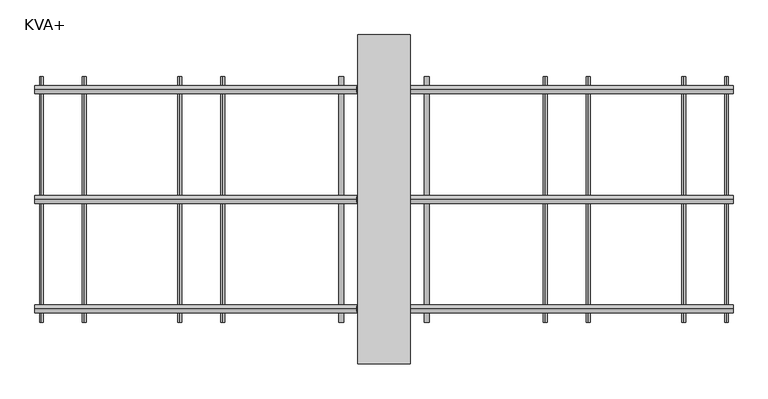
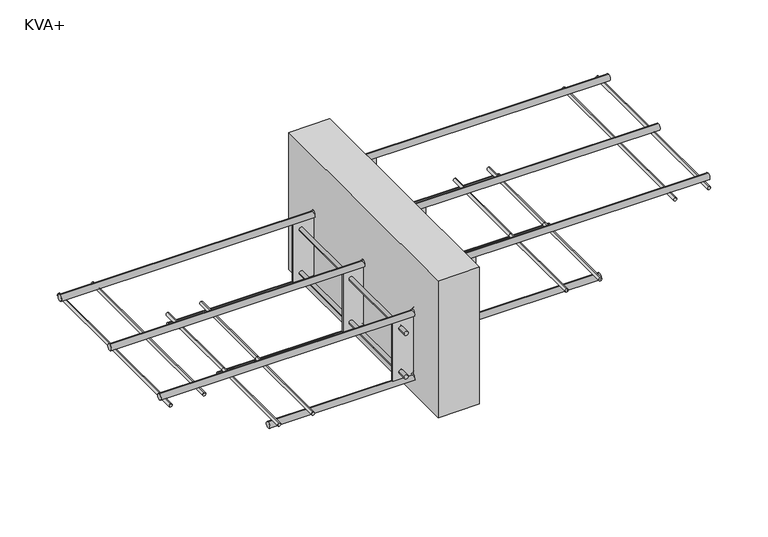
"""IFC4 building model written with IfcOpenShell, lengths in millimetres: fastener geometry, ACINOXplus_Typenreihe_KV : KVA+."""

import ifcopenshell
import ifcopenshell.guid

model = None  # the IFC model being written
_history = None  # IfcOwnerHistory: only IFC2X3 demands one
_inside = {}  # id of a spatial element -> (the spatial element, [elements in it])
_under = {}  # id of a project, library or spatial element -> (it, [spatial elements below it])
_declared = {}  # id of a project -> (the project, [libraries it declares])
_typed = {}  # id of a type object -> (the type object, [elements of that type])
_made_of = {}  # id of a material, layer set ... -> (it, [elements and type objects made of it])


def new_model(schema):
    """Start an empty IFC model of exactly this schema.

    Asked for "IFC4X3", IfcOpenShell would pick the latest addendum, in which some entities
    have other attributes; the version numbers below select the first issue.
    IFC2X3 requires an IfcOwnerHistory on every rooted entity: one is made here for all.
    """
    global model, _history
    if schema == "IFC4X3":
        model = ifcopenshell.file(schema_version=(4, 3, 0, 0))
    else:
        model = ifcopenshell.file(schema=schema)
    _inside.clear()
    _under.clear()
    _declared.clear()
    _typed.clear()
    _made_of.clear()
    _history = None
    if model.schema == "IFC2X3":
        org = make("IfcOrganization", Name="unknown")
        user = make(
            "IfcPersonAndOrganization",
            ThePerson=make("IfcPerson", FamilyName="unknown"),
            TheOrganization=org,
        )
        app = make(
            "IfcApplication",
            ApplicationDeveloper=org,
            Version="unknown",
            ApplicationFullName="unknown",
            ApplicationIdentifier="unknown",
        )
        _history = make(
            "IfcOwnerHistory",
            OwningUser=user,
            OwningApplication=app,
            ChangeAction="ADDED",
            CreationDate=0,
        )
    return model


def make(cls, **values):
    """One entity of the class cls with the attributes given. An attribute that is None is left unset."""
    return model.create_entity(
        cls, **{name: value for name, value in values.items() if value is not None}
    )


def rooted(cls, **values):
    """An entity with a GlobalId (a new one), such as an element, a storey or a relation."""
    return make(cls, GlobalId=ifcopenshell.guid.new(), OwnerHistory=_history, **values)


def si_unit(unit_type, name, prefix=None):
    """IfcSIUnit, for example si_unit("LENGTHUNIT", "METRE", prefix="MILLI")."""
    return make("IfcSIUnit", UnitType=unit_type, Prefix=prefix, Name=name)


def assignment(units):
    """IfcUnitAssignment: the units of a project."""
    return None if units is None else make("IfcUnitAssignment", Units=units)


def point(xyz):
    """IfcCartesianPoint."""
    return None if xyz is None else make("IfcCartesianPoint", Coordinates=xyz)


def direction(xyz):
    """IfcDirection."""
    return None if xyz is None else make("IfcDirection", DirectionRatios=xyz)


def frame(location, z_axis=None, x_axis=None):
    """IfcAxis2Placement3D, a coordinate frame: its origin and axes. An axis left out is left unset."""
    return make(
        "IfcAxis2Placement3D",
        Location=point(location),
        Axis=direction(z_axis),
        RefDirection=direction(x_axis),
    )


def frame_2d(location, x_axis=None):
    """IfcAxis2Placement2D, a coordinate frame in the plane: its origin and x axis."""
    return make(
        "IfcAxis2Placement2D", Location=point(location), RefDirection=direction(x_axis)
    )


def origin():
    """The frame at (0, 0, 0) with its axes left unset."""
    return frame((0.0, 0.0, 0.0))


def place(relative_to, where):
    """IfcLocalPlacement: puts the frame where relative to a parent placement (None: the world)."""
    return make(
        "IfcLocalPlacement", PlacementRelTo=relative_to, RelativePlacement=where
    )


def context(
    kind, dimensions, precision=None, world=None, true_north=None, identifier=None
):
    """IfcGeometricRepresentationContext, for example the 3D "Model" context."""
    return make(
        "IfcGeometricRepresentationContext",
        ContextIdentifier=identifier,
        ContextType=kind,
        CoordinateSpaceDimension=dimensions,
        Precision=precision,
        WorldCoordinateSystem=world,
        TrueNorth=true_north,
    )


def project(units=None, contexts=None):
    """IfcProject with its units and contexts."""
    return rooted(
        "IfcProject",
        Name="project",
        RepresentationContexts=contexts,
        UnitsInContext=assignment(units),
    )


def spatial(cls, under=None, at=None, **own):
    """A site, building, storey or space (cls), placed at a placement, below another one or the project."""
    s = rooted(cls, ObjectPlacement=at, **own)
    if under is not None:
        _under.setdefault(under.id(), (under, []))[1].append(s)
    return s


def polyline(points):
    """IfcPolyline through the points."""
    return make("IfcPolyline", Points=[point(p) for p in points])


def circle_curve(where, radius):
    """IfcCircle in the frame where."""
    return make("IfcCircle", Position=where, Radius=radius)


def ellipse_curve(where, semi_axis1, semi_axis2):
    """IfcEllipse in the frame where."""
    return make(
        "IfcEllipse", Position=where, SemiAxis1=semi_axis1, SemiAxis2=semi_axis2
    )


def trimmed(basis, trim1, trim2, sense, master):
    """IfcTrimmedCurve: the piece of a basis curve between two trims."""
    return make(
        "IfcTrimmedCurve",
        BasisCurve=basis,
        Trim1=trim1,
        Trim2=trim2,
        SenseAgreement=sense,
        MasterRepresentation=master,
    )


def segment(curve, same_sense, transition):
    """IfcCompositeCurveSegment."""
    return make(
        "IfcCompositeCurveSegment",
        Transition=transition,
        SameSense=same_sense,
        ParentCurve=curve,
    )


def composite_curve(segments, self_intersect=None):
    """IfcCompositeCurve: segments joined end to end."""
    return make("IfcCompositeCurve", Segments=segments, SelfIntersect=self_intersect)


def outline(outer, holes=None, kind="AREA"):
    """IfcArbitraryClosedProfileDef: a profile drawn as a closed curve; with holes, ...WithVoids."""
    if holes is None:
        return make("IfcArbitraryClosedProfileDef", ProfileType=kind, OuterCurve=outer)
    return make(
        "IfcArbitraryProfileDefWithVoids",
        ProfileType=kind,
        OuterCurve=outer,
        InnerCurves=holes,
    )


def extrude(swept, where, along, depth):
    """IfcExtrudedAreaSolid: the profile swept, set in the frame where, extruded along a direction by depth."""
    return make(
        "IfcExtrudedAreaSolid",
        SweptArea=swept,
        Position=where,
        ExtrudedDirection=direction(along),
        Depth=depth,
    )


def shape(context_of_items, identifier, shape_type, items):
    """IfcShapeRepresentation: the items that make up one representation, for example the "Body"."""
    return make(
        "IfcShapeRepresentation",
        ContextOfItems=context_of_items,
        RepresentationIdentifier=identifier,
        RepresentationType=shape_type,
        Items=items,
    )


def source(mapping_origin, context_of_items, identifier, shape_type, items):
    """IfcRepresentationMap: a shape defined once, which mapped items show again and again."""
    return make(
        "IfcRepresentationMap",
        MappingOrigin=mapping_origin,
        MappedRepresentation=shape(context_of_items, identifier, shape_type, items),
    )


def transform(
    local_origin,
    x_axis=None,
    y_axis=None,
    z_axis=None,
    scale=None,
    scale2=None,
    scale3=None,
    uniform=True,
):
    """IfcCartesianTransformationOperator3D, or its non-uniform kind. x_axis, y_axis, z_axis: its Axis1, 2, 3."""
    if uniform:
        return make(
            "IfcCartesianTransformationOperator3D",
            Axis1=direction(x_axis),
            Axis2=direction(y_axis),
            LocalOrigin=point(local_origin),
            Scale=scale,
            Axis3=direction(z_axis),
        )
    return make(
        "IfcCartesianTransformationOperator3DnonUniform",
        Axis1=direction(x_axis),
        Axis2=direction(y_axis),
        LocalOrigin=point(local_origin),
        Scale=scale,
        Axis3=direction(z_axis),
        Scale2=scale2,
        Scale3=scale3,
    )


def mapped(mapping_source, mapping_target):
    """IfcMappedItem: shows the shape of a source again, moved by a transform."""
    return make(
        "IfcMappedItem", MappingSource=mapping_source, MappingTarget=mapping_target
    )


def made_of(thing, what):
    """Note that an element or type object is made of a material, layer set ...; save() writes the relation."""
    if what is not None:
        _made_of.setdefault(what.id(), (what, []))[1].append(thing)
    return thing


def element(
    cls,
    number,
    at=None,
    inside=None,
    cuts=None,
    type_object=None,
    material=None,
    context=None,
    identifier="Body",
    shape_type=None,
    held_by="IfcProductDefinitionShape",
    body=None,
    shapes=None,
    **own,
):
    """One element of the class cls, such as IfcWall. Its Tag is "e" and its number.

    at: its placement. inside: the storey or other place that contains it. cuts: it is an
    opening in that element (IfcRelVoidsElement). A single representation is given by context,
    identifier, shape_type and body (its items); several are given by shapes. held_by: the class
    of the entity that holds the representations. save() writes the other relations.
    """
    e = rooted(cls, Tag="e%d" % number, ObjectPlacement=at, **own)
    if body is not None:
        shapes = [shape(context, identifier, shape_type, body)]
    if shapes is not None:
        e.Representation = make(held_by, Representations=shapes)
    if inside is not None:
        _inside.setdefault(inside.id(), (inside, []))[1].append(e)
    if cuts is not None:
        rooted(
            "IfcRelVoidsElement", RelatingBuildingElement=cuts, RelatedOpeningElement=e
        )
    if type_object is not None:
        _typed.setdefault(type_object.id(), (type_object, []))[1].append(e)
    return made_of(e, material)


def aggregate(whole, parts):
    """IfcRelAggregates: a whole, such as a stair, and the parts it consists of."""
    return rooted("IfcRelAggregates", RelatingObject=whole, RelatedObjects=parts)


def save(model, path):
    """Write the relations noted so far, then the file.

    IfcRelAggregates (storeys below a building ...), IfcRelContainedInSpatialStructure (elements
    in a storey), IfcRelDefinesByType, IfcRelAssociatesMaterial and IfcRelDeclares: one each for
    every whole, place, type object, material and project.
    """
    for whole, parts in _under.values():
        aggregate(whole, parts)
    for where, things in _inside.values():
        rooted(
            "IfcRelContainedInSpatialStructure",
            RelatedElements=things,
            RelatingStructure=where,
        )
    for kind, things in _typed.values():
        rooted("IfcRelDefinesByType", RelatedObjects=things, RelatingType=kind)
    for what, things in _made_of.values():
        rooted("IfcRelAssociatesMaterial", RelatedObjects=things, RelatingMaterial=what)
    for by, libraries in _declared.values():
        rooted("IfcRelDeclares", RelatingContext=by, RelatedDefinitions=libraries)
    model.write(path)


def plane_surface(at):
    """IfcPlane: the flat surface through the origin of the frame at, square to its z axis."""
    return make("IfcPlane", Position=at)


def cylinder_surface(at, radius):
    """IfcCylindricalSurface: all points at the distance radius from the z axis of the frame at."""
    return make("IfcCylindricalSurface", Position=at, Radius=radius)


def advanced_brep(points, edges, surfaces, faces):
    """IfcAdvancedBrep: a solid bounded by faces that lie on surfaces and meet in shared edges.

    An edge is (start, end): straight between two places in points (the first is 0);
    or (start, end, curve); or (start, end, curve, False) where it runs against its curve.
    A face is (place in surfaces, loops), or (place, loops, False) where it looks against
    its surface's normal. A loop lists edges by number (the first is 1), with a minus sign
    where the edge is run from its end to its start. The first loop is the outer one.
    """
    corners = [point(p) for p in points]
    vertices = [make("IfcVertexPoint", VertexGeometry=c) for c in corners]
    made = []
    for start, end, *more in edges:
        made.append(
            make(
                "IfcEdgeCurve",
                EdgeStart=vertices[start],
                EdgeEnd=vertices[end],
                EdgeGeometry=more[0] if more else make("IfcPolyline", Points=[corners[start], corners[end]]),
                SameSense=more[1] if len(more) > 1 else True,
            )
        )
    hull = []
    for where, loops, *sense in faces:
        bounds = []
        for j, loop in enumerate(loops):
            ring = [make("IfcOrientedEdge", EdgeElement=made[abs(k) - 1], Orientation=k > 0) for k in loop]
            bounds.append(
                make(
                    "IfcFaceOuterBound" if j == 0 else "IfcFaceBound",
                    Bound=make("IfcEdgeLoop", EdgeList=ring),
                    Orientation=True,
                )
            )
        hull.append(make("IfcAdvancedFace", Bounds=bounds, FaceSurface=surfaces[where], SameSense=sense[0] if sense else True))
    return make("IfcAdvancedBrep", Outer=make("IfcClosedShell", CfsFaces=hull))


def kva_fb9bc3b8(model_context):
    return source(origin(), model_context, "Body", "SolidModel", [
        extrude(outline(polyline([(40.0, 250.0), (40.0, -250.0), (-40.0, -250.0), (-40.0, 250.0), (40.0, 250.0)])), frame((0.0, 0.0, -200.0), z_axis=(0.0, 0.0, 1.0), x_axis=(1.0, 0.0, 0.0)), (0.0, 0.0, 1.0), 280.0),
        extrude(outline(polyline([(-42.0, -40.0), (-42.0, -80.0), (-161.0, -80.0), (-161.0, -40.0), (-81.0, 40.0), (-81.0, 80.0), (38.0, 80.0), (38.0, 40.0), (-42.0, -40.0)])), frame((0.0, -1.5, 0.0), z_axis=(0.0, 1.0, 0.0), x_axis=(0.0, 0.0, 1.0)), (0.0, 0.0, 1.0), 3.0),
        extrude(outline(polyline([(-42.0, -40.0), (-42.0, -80.0), (-161.0, -80.0), (-161.0, -40.0), (-81.0, 40.0), (-81.0, 80.0), (38.0, 80.0), (38.0, 40.0), (-42.0, -40.0)])), frame((0.0, 165.1666667, 0.0), z_axis=(0.0, 1.0, 0.0), x_axis=(0.0, 0.0, 1.0)), (0.0, 0.0, 1.0), 3.0),
        extrude(outline(polyline([(-42.0, -40.0), (-42.0, -80.0), (-161.0, -80.0), (-161.0, -40.0), (-81.0, 40.0), (-81.0, 80.0), (38.0, 80.0), (38.0, 40.0), (-42.0, -40.0)])), frame((0.0, -168.1666667, 0.0), z_axis=(0.0, 1.0, 0.0), x_axis=(0.0, 0.0, 1.0)), (0.0, 0.0, 1.0), 3.0),
        extrude(outline(composite_curve([segment(trimmed(circle_curve(frame_2d((-146.0, -65.0)), 4.0), [point((-146.0, -69.0))], [point((-146.0, -61.0))], False, "CARTESIAN"), True, "CONTINUOUS"), segment(trimmed(circle_curve(frame_2d((-146.0, -65.0)), 4.0), [point((-146.0, -61.0))], [point((-146.0, -69.0))], False, "CARTESIAN"), True, "CONTINUOUS")], self_intersect=False)), frame((0.0, 168.1666667, 0.0), z_axis=(0.0, 1.0, 0.0), x_axis=(0.0, 0.0, 1.0)), (0.0, 0.0, 1.0), 18.5),
        extrude(outline(composite_curve([segment(trimmed(circle_curve(frame_2d((-146.0, -65.0)), 4.0), [point((-146.0, -61.0))], [point((-146.0, -69.0))], False, "CARTESIAN"), True, "CONTINUOUS"), segment(trimmed(circle_curve(frame_2d((-146.0, -65.0)), 4.0), [point((-146.0, -69.0))], [point((-146.0, -61.0))], False, "CARTESIAN"), True, "CONTINUOUS")], self_intersect=False)), frame((0.0, -186.6666667, 0.0), z_axis=(0.0, 1.0, 0.0), x_axis=(0.0, 0.0, 1.0)), (0.0, 0.0, 1.0), 18.5),
        extrude(outline(composite_curve([segment(trimmed(circle_curve(frame_2d((-146.0, -65.0)), 4.0), [point((-146.0, -69.0))], [point((-146.0, -61.0))], False, "CARTESIAN"), True, "CONTINUOUS"), segment(trimmed(circle_curve(frame_2d((-146.0, -65.0)), 4.0), [point((-146.0, -61.0))], [point((-146.0, -69.0))], False, "CARTESIAN"), True, "CONTINUOUS")], self_intersect=False)), frame((0.0, -165.1666667, 0.0), z_axis=(0.0, 1.0, 0.0), x_axis=(0.0, 0.0, 1.0)), (0.0, 0.0, 1.0), 163.6666667),
        extrude(outline(composite_curve([segment(trimmed(circle_curve(frame_2d((-146.0, -65.0)), 4.0), [point((-146.0, -69.0))], [point((-146.0, -61.0))], False, "CARTESIAN"), True, "CONTINUOUS"), segment(trimmed(circle_curve(frame_2d((-146.0, -65.0)), 4.0), [point((-146.0, -61.0))], [point((-146.0, -69.0))], False, "CARTESIAN"), True, "CONTINUOUS")], self_intersect=False)), frame((0.0, 1.5, 0.0), z_axis=(0.0, 1.0, 0.0), x_axis=(0.0, 0.0, 1.0)), (0.0, 0.0, 1.0), 163.6666667),
        extrude(outline(composite_curve([segment(trimmed(circle_curve(frame_2d((-66.0, 65.0)), 4.0), [point((-66.0, 61.0))], [point((-66.0, 69.0))], False, "CARTESIAN"), True, "CONTINUOUS"), segment(trimmed(circle_curve(frame_2d((-66.0, 65.0)), 4.0), [point((-66.0, 69.0))], [point((-66.0, 61.0))], False, "CARTESIAN"), True, "CONTINUOUS")], self_intersect=False)), frame((0.0, 168.1666667, 0.0), z_axis=(0.0, 1.0, 0.0), x_axis=(0.0, 0.0, 1.0)), (0.0, 0.0, 1.0), 18.5),
        extrude(outline(composite_curve([segment(trimmed(circle_curve(frame_2d((-66.0, 65.0)), 4.0), [point((-66.0, 69.0))], [point((-66.0, 61.0))], False, "CARTESIAN"), True, "CONTINUOUS"), segment(trimmed(circle_curve(frame_2d((-66.0, 65.0)), 4.0), [point((-66.0, 61.0))], [point((-66.0, 69.0))], False, "CARTESIAN"), True, "CONTINUOUS")], self_intersect=False)), frame((0.0, -186.6666667, 0.0), z_axis=(0.0, 1.0, 0.0), x_axis=(0.0, 0.0, 1.0)), (0.0, 0.0, 1.0), 18.5),
        extrude(outline(composite_curve([segment(trimmed(circle_curve(frame_2d((-66.0, 65.0)), 4.0), [point((-66.0, 61.0))], [point((-66.0, 69.0))], False, "CARTESIAN"), True, "CONTINUOUS"), segment(trimmed(circle_curve(frame_2d((-66.0, 65.0)), 4.0), [point((-66.0, 69.0))], [point((-66.0, 61.0))], False, "CARTESIAN"), True, "CONTINUOUS")], self_intersect=False)), frame((0.0, -165.1666667, 0.0), z_axis=(0.0, 1.0, 0.0), x_axis=(0.0, 0.0, 1.0)), (0.0, 0.0, 1.0), 163.6666667),
        extrude(outline(composite_curve([segment(trimmed(circle_curve(frame_2d((-66.0, 65.0)), 4.0), [point((-66.0, 61.0))], [point((-66.0, 69.0))], False, "CARTESIAN"), True, "CONTINUOUS"), segment(trimmed(circle_curve(frame_2d((-66.0, 65.0)), 4.0), [point((-66.0, 69.0))], [point((-66.0, 61.0))], False, "CARTESIAN"), True, "CONTINUOUS")], self_intersect=False)), frame((0.0, 1.5, 0.0), z_axis=(0.0, 1.0, 0.0), x_axis=(0.0, 0.0, 1.0)), (0.0, 0.0, 1.0), 163.6666667),
        extrude(outline(composite_curve([segment(trimmed(circle_curve(frame_2d((-57.0, -65.0)), 4.0), [point((-57.0, -69.0))], [point((-57.0, -61.0))], False, "CARTESIAN"), True, "CONTINUOUS"), segment(trimmed(circle_curve(frame_2d((-57.0, -65.0)), 4.0), [point((-57.0, -61.0))], [point((-57.0, -69.0))], False, "CARTESIAN"), True, "CONTINUOUS")], self_intersect=False)), frame((0.0, 168.1666667, 0.0), z_axis=(0.0, 1.0, 0.0), x_axis=(0.0, 0.0, 1.0)), (0.0, 0.0, 1.0), 18.5),
        extrude(outline(composite_curve([segment(trimmed(circle_curve(frame_2d((-57.0, -65.0)), 4.0), [point((-57.0, -61.0))], [point((-57.0, -69.0))], False, "CARTESIAN"), True, "CONTINUOUS"), segment(trimmed(circle_curve(frame_2d((-57.0, -65.0)), 4.0), [point((-57.0, -69.0))], [point((-57.0, -61.0))], False, "CARTESIAN"), True, "CONTINUOUS")], self_intersect=False)), frame((0.0, -186.6666667, 0.0), z_axis=(0.0, 1.0, 0.0), x_axis=(0.0, 0.0, 1.0)), (0.0, 0.0, 1.0), 18.5),
        extrude(outline(composite_curve([segment(trimmed(circle_curve(frame_2d((-57.0, -65.0)), 4.0), [point((-57.0, -69.0))], [point((-57.0, -61.0))], False, "CARTESIAN"), True, "CONTINUOUS"), segment(trimmed(circle_curve(frame_2d((-57.0, -65.0)), 4.0), [point((-57.0, -61.0))], [point((-57.0, -69.0))], False, "CARTESIAN"), True, "CONTINUOUS")], self_intersect=False)), frame((0.0, -165.1666667, 0.0), z_axis=(0.0, 1.0, 0.0), x_axis=(0.0, 0.0, 1.0)), (0.0, 0.0, 1.0), 163.6666667),
        extrude(outline(composite_curve([segment(trimmed(circle_curve(frame_2d((-57.0, -65.0)), 4.0), [point((-57.0, -69.0))], [point((-57.0, -61.0))], False, "CARTESIAN"), True, "CONTINUOUS"), segment(trimmed(circle_curve(frame_2d((-57.0, -65.0)), 4.0), [point((-57.0, -61.0))], [point((-57.0, -69.0))], False, "CARTESIAN"), True, "CONTINUOUS")], self_intersect=False)), frame((0.0, 1.5, 0.0), z_axis=(0.0, 1.0, 0.0), x_axis=(0.0, 0.0, 1.0)), (0.0, 0.0, 1.0), 163.6666667),
        extrude(outline(composite_curve([segment(trimmed(circle_curve(frame_2d((23.0, 65.0)), 4.0), [point((23.0, 61.0))], [point((23.0, 69.0))], False, "CARTESIAN"), True, "CONTINUOUS"), segment(trimmed(circle_curve(frame_2d((23.0, 65.0)), 4.0), [point((23.0, 69.0))], [point((23.0, 61.0))], False, "CARTESIAN"), True, "CONTINUOUS")], self_intersect=False)), frame((0.0, 168.1666667, 0.0), z_axis=(0.0, 1.0, 0.0), x_axis=(0.0, 0.0, 1.0)), (0.0, 0.0, 1.0), 18.5),
        extrude(outline(composite_curve([segment(trimmed(circle_curve(frame_2d((23.0, 65.0)), 4.0), [point((23.0, 69.0))], [point((23.0, 61.0))], False, "CARTESIAN"), True, "CONTINUOUS"), segment(trimmed(circle_curve(frame_2d((23.0, 65.0)), 4.0), [point((23.0, 61.0))], [point((23.0, 69.0))], False, "CARTESIAN"), True, "CONTINUOUS")], self_intersect=False)), frame((0.0, -186.6666667, 0.0), z_axis=(0.0, 1.0, 0.0), x_axis=(0.0, 0.0, 1.0)), (0.0, 0.0, 1.0), 18.5),
        extrude(outline(composite_curve([segment(trimmed(circle_curve(frame_2d((23.0, 65.0)), 4.0), [point((23.0, 61.0))], [point((23.0, 69.0))], False, "CARTESIAN"), True, "CONTINUOUS"), segment(trimmed(circle_curve(frame_2d((23.0, 65.0)), 4.0), [point((23.0, 69.0))], [point((23.0, 61.0))], False, "CARTESIAN"), True, "CONTINUOUS")], self_intersect=False)), frame((0.0, -165.1666667, 0.0), z_axis=(0.0, 1.0, 0.0), x_axis=(0.0, 0.0, 1.0)), (0.0, 0.0, 1.0), 163.6666667),
        extrude(outline(composite_curve([segment(trimmed(circle_curve(frame_2d((23.0, 65.0)), 4.0), [point((23.0, 61.0))], [point((23.0, 69.0))], False, "CARTESIAN"), True, "CONTINUOUS"), segment(trimmed(circle_curve(frame_2d((23.0, 65.0)), 4.0), [point((23.0, 69.0))], [point((23.0, 61.0))], False, "CARTESIAN"), True, "CONTINUOUS")], self_intersect=False)), frame((0.0, 1.5, 0.0), z_axis=(0.0, 1.0, 0.0), x_axis=(0.0, 0.0, 1.0)), (0.0, 0.0, 1.0), 163.6666667),
        advanced_brep(
        [(-320.0, 0.0, -173.0), (-320.0, 0.0, -161.0), (-37.5147186, 0.0, -173.0), (-42.4852814, 0.0, -161.0), (42.4852814, 0.0, -93.0), (37.5147186, 0.0, -81.0), (320.0, 0.0, -93.0), (320.0, 0.0, -81.0)],
        [
            (0, 1, circle_curve(frame((-320.0, 0.0, -167.0), z_axis=(-1.0, 0.0, 0.0), x_axis=(0.0, 0.0, 1.0)), 6.0)),
            (1, 0, circle_curve(frame((-320.0, 0.0, -167.0), z_axis=(-1.0, 0.0, 0.0), x_axis=(0.0, 0.0, 1.0)), 6.0)),
            (0, 2),
            (2, 3, ellipse_curve(frame((-40.0, 0.0, -167.0), z_axis=(-0.9238795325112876, 0.0, -0.382683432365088), x_axis=(-0.3826834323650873, 0.0, 0.923879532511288)), 6.4943532, 6.0)),
            (3, 1),
            (3, 2, ellipse_curve(frame((-40.0, 0.0, -167.0), z_axis=(-0.9238795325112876, 0.0, -0.382683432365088), x_axis=(-0.3826834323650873, 0.0, 0.923879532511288)), 6.4943532, 6.0)),
            (2, 4),
            (4, 5, ellipse_curve(frame((40.0, 0.0, -87.0), z_axis=(-0.9238795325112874, 0.0, -0.382683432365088), x_axis=(0.3826834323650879, 0.0, -0.9238795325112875)), 6.4943532, 6.0)),
            (5, 3),
            (5, 4, ellipse_curve(frame((40.0, 0.0, -87.0), z_axis=(-0.9238795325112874, 0.0, -0.382683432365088), x_axis=(0.3826834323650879, 0.0, -0.9238795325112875)), 6.4943532, 6.0)),
            (6, 7, circle_curve(frame((320.0, 0.0, -87.0), z_axis=(1.0, 0.0, 0.0), x_axis=(0.0, 0.0, 1.0)), 6.0)),
            (7, 6, circle_curve(frame((320.0, 0.0, -87.0), z_axis=(1.0, 0.0, 0.0), x_axis=(0.0, 0.0, 1.0)), 6.0)),
            (4, 6),
            (7, 5),
        ],
        [
            plane_surface(frame((-320.0, 0.0, -167.0), z_axis=(-1.0, 0.0, 0.0), x_axis=(0.0, -1.0, 0.0))),
            cylinder_surface(frame((-320.0, 0.0, -167.0), z_axis=(-1.0, 0.0, 0.0), x_axis=(0.0, 0.0, 1.0)), 6.0),
            cylinder_surface(frame((-40.0, 0.0, -167.0), z_axis=(-0.707106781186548, 0.0, -0.707106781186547), x_axis=(-0.707106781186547, 0.0, 0.707106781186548)), 6.0),
            plane_surface(frame((320.0, 0.0, -87.0), z_axis=(1.0, 0.0, 0.0), x_axis=(0.0, -1.0, 0.0))),
            cylinder_surface(frame((40.0, 0.0, -87.0), z_axis=(-1.0, 0.0, 0.0), x_axis=(0.0, 0.0, 1.0)), 6.0),
        ],
        [
            (0, [[1, 2]]),
            (1, [[-1, 3, 4, 5]]),
            (1, [[-2, -5, 6, -3]]),
            (2, [[-4, 7, 8, 9]]),
            (2, [[-6, -9, 10, -7]]),
            (3, [[11, 12]]),
            (4, [[-8, 13, -12, 14]]),
            (4, [[-10, -14, -11, -13]]),
        ],
    ),
        advanced_brep(
        [(-320.0, 166.6666667, -173.0), (-320.0, 166.6666667, -161.0), (-37.5147186, 166.6666667, -173.0), (-42.4852814, 166.6666667, -161.0), (42.4852814, 166.6666667, -93.0), (37.5147186, 166.6666667, -81.0), (320.0, 166.6666667, -93.0), (320.0, 166.6666667, -81.0)],
        [
            (0, 1, circle_curve(frame((-320.0, 166.6666667, -167.0), z_axis=(-1.0, 0.0, 0.0), x_axis=(0.0, 0.0, 1.0)), 6.0)),
            (1, 0, circle_curve(frame((-320.0, 166.6666667, -167.0), z_axis=(-1.0, 0.0, 0.0), x_axis=(0.0, 0.0, 1.0)), 6.0)),
            (0, 2),
            (2, 3, ellipse_curve(frame((-40.0, 166.6666667, -167.0), z_axis=(-0.9238795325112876, 0.0, -0.382683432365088), x_axis=(-0.3826834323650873, 0.0, 0.923879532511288)), 6.4943532, 6.0)),
            (3, 1),
            (3, 2, ellipse_curve(frame((-40.0, 166.6666667, -167.0), z_axis=(-0.9238795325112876, 0.0, -0.382683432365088), x_axis=(-0.3826834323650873, 0.0, 0.923879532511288)), 6.4943532, 6.0)),
            (2, 4),
            (4, 5, ellipse_curve(frame((40.0, 166.6666667, -87.0), z_axis=(-0.9238795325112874, 0.0, -0.382683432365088), x_axis=(0.3826834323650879, 0.0, -0.9238795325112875)), 6.4943532, 6.0)),
            (5, 3),
            (5, 4, ellipse_curve(frame((40.0, 166.6666667, -87.0), z_axis=(-0.9238795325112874, 0.0, -0.382683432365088), x_axis=(0.3826834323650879, 0.0, -0.9238795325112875)), 6.4943532, 6.0)),
            (6, 7, circle_curve(frame((320.0, 166.6666667, -87.0), z_axis=(1.0, 0.0, 0.0), x_axis=(0.0, 0.0, 1.0)), 6.0)),
            (7, 6, circle_curve(frame((320.0, 166.6666667, -87.0), z_axis=(1.0, 0.0, 0.0), x_axis=(0.0, 0.0, 1.0)), 6.0)),
            (4, 6),
            (7, 5),
        ],
        [
            plane_surface(frame((-320.0, 166.6666667, -167.0), z_axis=(-1.0, 0.0, 0.0), x_axis=(0.0, -1.0, 0.0))),
            cylinder_surface(frame((-320.0, 166.6666667, -167.0), z_axis=(-1.0, 0.0, 0.0), x_axis=(0.0, 0.0, 1.0)), 6.0),
            cylinder_surface(frame((-40.0, 166.6666667, -167.0), z_axis=(-0.707106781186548, 0.0, -0.707106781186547), x_axis=(-0.707106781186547, 0.0, 0.707106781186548)), 6.0),
            plane_surface(frame((320.0, 166.6666667, -87.0), z_axis=(1.0, 0.0, 0.0), x_axis=(0.0, -1.0, 0.0))),
            cylinder_surface(frame((40.0, 166.6666667, -87.0), z_axis=(-1.0, 0.0, 0.0), x_axis=(0.0, 0.0, 1.0)), 6.0),
        ],
        [
            (0, [[1, 2]]),
            (1, [[-1, 3, 4, 5]]),
            (1, [[-2, -5, 6, -3]]),
            (2, [[-4, 7, 8, 9]]),
            (2, [[-6, -9, 10, -7]]),
            (3, [[11, 12]]),
            (4, [[-8, 13, -12, 14]]),
            (4, [[-10, -14, -11, -13]]),
        ],
    ),
        advanced_brep(
        [(-320.0, -166.6666667, -173.0), (-320.0, -166.6666667, -161.0), (-37.5147186, -166.6666667, -173.0), (-42.4852814, -166.6666667, -161.0), (42.4852814, -166.6666667, -93.0), (37.5147186, -166.6666667, -81.0), (320.0, -166.6666667, -93.0), (320.0, -166.6666667, -81.0)],
        [
            (0, 1, circle_curve(frame((-320.0, -166.6666667, -167.0), z_axis=(-1.0, 0.0, 0.0), x_axis=(0.0, 0.0, 1.0)), 6.0)),
            (1, 0, circle_curve(frame((-320.0, -166.6666667, -167.0), z_axis=(-1.0, 0.0, 0.0), x_axis=(0.0, 0.0, 1.0)), 6.0)),
            (0, 2),
            (2, 3, ellipse_curve(frame((-40.0, -166.6666667, -167.0), z_axis=(-0.9238795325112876, 0.0, -0.382683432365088), x_axis=(-0.3826834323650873, 0.0, 0.923879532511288)), 6.4943532, 6.0)),
            (3, 1),
            (3, 2, ellipse_curve(frame((-40.0, -166.6666667, -167.0), z_axis=(-0.9238795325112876, 0.0, -0.382683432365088), x_axis=(-0.3826834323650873, 0.0, 0.923879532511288)), 6.4943532, 6.0)),
            (2, 4),
            (4, 5, ellipse_curve(frame((40.0, -166.6666667, -87.0), z_axis=(-0.9238795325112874, 0.0, -0.382683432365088), x_axis=(0.3826834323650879, 0.0, -0.9238795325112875)), 6.4943532, 6.0)),
            (5, 3),
            (5, 4, ellipse_curve(frame((40.0, -166.6666667, -87.0), z_axis=(-0.9238795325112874, 0.0, -0.382683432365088), x_axis=(0.3826834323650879, 0.0, -0.9238795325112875)), 6.4943532, 6.0)),
            (6, 7, circle_curve(frame((320.0, -166.6666667, -87.0), z_axis=(1.0, 0.0, 0.0), x_axis=(0.0, 0.0, 1.0)), 6.0)),
            (7, 6, circle_curve(frame((320.0, -166.6666667, -87.0), z_axis=(1.0, 0.0, 0.0), x_axis=(0.0, 0.0, 1.0)), 6.0)),
            (4, 6),
            (7, 5),
        ],
        [
            plane_surface(frame((-320.0, -166.6666667, -167.0), z_axis=(-1.0, 0.0, 0.0), x_axis=(0.0, -1.0, 0.0))),
            cylinder_surface(frame((-320.0, -166.6666667, -167.0), z_axis=(-1.0, 0.0, 0.0), x_axis=(0.0, 0.0, 1.0)), 6.0),
            cylinder_surface(frame((-40.0, -166.6666667, -167.0), z_axis=(-0.707106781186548, 0.0, -0.707106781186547), x_axis=(-0.707106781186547, 0.0, 0.707106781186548)), 6.0),
            plane_surface(frame((320.0, -166.6666667, -87.0), z_axis=(1.0, 0.0, 0.0), x_axis=(0.0, -1.0, 0.0))),
            cylinder_surface(frame((40.0, -166.6666667, -87.0), z_axis=(-1.0, 0.0, 0.0), x_axis=(0.0, 0.0, 1.0)), 6.0),
        ],
        [
            (0, [[1, 2]]),
            (1, [[-1, 3, 4, 5]]),
            (1, [[-2, -5, 6, -3]]),
            (2, [[-4, 7, 8, 9]]),
            (2, [[-6, -9, 10, -7]]),
            (3, [[11, 12]]),
            (4, [[-8, 13, -12, 14]]),
            (4, [[-10, -14, -11, -13]]),
        ],
    ),
        advanced_brep(
        [(-530.0, 0.0, -42.0), (-530.0, 0.0, -30.0), (-37.5147186, 0.0, -42.0), (-42.4852814, 0.0, -30.0), (530.0, 0.0, 38.0), (530.0, 0.0, 50.0), (37.5147186, 0.0, 50.0), (42.4852814, 0.0, 38.0)],
        [
            (0, 1, circle_curve(frame((-530.0, 0.0, -36.0), z_axis=(-1.0, 0.0, 0.0), x_axis=(0.0, 0.0, 1.0)), 6.0)),
            (1, 0, circle_curve(frame((-530.0, 0.0, -36.0), z_axis=(-1.0, 0.0, 0.0), x_axis=(0.0, 0.0, 1.0)), 6.0)),
            (0, 2),
            (2, 3, ellipse_curve(frame((-40.0, 0.0, -36.0), z_axis=(-0.923879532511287, 0.0, -0.38268343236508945), x_axis=(-0.38268343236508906, 0.0, 0.9238795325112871)), 6.4943532, 6.0)),
            (3, 1),
            (3, 2, ellipse_curve(frame((-40.0, 0.0, -36.0), z_axis=(-0.923879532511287, 0.0, -0.38268343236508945), x_axis=(-0.38268343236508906, 0.0, 0.9238795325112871)), 6.4943532, 6.0)),
            (4, 5, circle_curve(frame((530.0, 0.0, 44.0), z_axis=(1.0, 0.0, 0.0), x_axis=(0.0, 0.0, 1.0)), 6.0)),
            (5, 4, circle_curve(frame((530.0, 0.0, 44.0), z_axis=(1.0, 0.0, 0.0), x_axis=(0.0, 0.0, 1.0)), 6.0)),
            (6, 7, ellipse_curve(frame((40.0, 0.0, 44.0), z_axis=(0.923879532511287, 0.0, 0.38268343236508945), x_axis=(-0.38268343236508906, 0.0, 0.9238795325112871)), 6.4943532, 6.0)),
            (7, 4),
            (5, 6),
            (7, 6, ellipse_curve(frame((40.0, 0.0, 44.0), z_axis=(0.923879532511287, 0.0, 0.38268343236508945), x_axis=(-0.38268343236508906, 0.0, 0.9238795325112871)), 6.4943532, 6.0)),
            (2, 7),
            (6, 3),
        ],
        [
            plane_surface(frame((-530.0, 0.0, -36.0), z_axis=(-1.0, 0.0, 0.0), x_axis=(0.0, -1.0, 0.0))),
            cylinder_surface(frame((-530.0, 0.0, -36.0), z_axis=(-1.0, 0.0, 0.0), x_axis=(0.0, 0.0, 1.0)), 6.0),
            plane_surface(frame((530.0, 0.0, 44.0), z_axis=(1.0, 0.0, 0.0), x_axis=(0.0, -1.0, 0.0))),
            cylinder_surface(frame((40.0, 0.0, 44.0), z_axis=(-1.0, 0.0, 0.0), x_axis=(0.0, 0.0, 1.0)), 6.0),
            cylinder_surface(frame((-40.0, 0.0, -36.0), z_axis=(-0.7071067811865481, 0.0, -0.707106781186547), x_axis=(-0.707106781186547, 0.0, 0.7071067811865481)), 6.0),
        ],
        [
            (0, [[1, 2]]),
            (1, [[-1, 3, 4, 5]]),
            (1, [[-2, -5, 6, -3]]),
            (2, [[7, 8]]),
            (3, [[9, 10, -8, 11]]),
            (3, [[12, -11, -7, -10]]),
            (4, [[-4, 13, -9, 14]]),
            (4, [[-6, -14, -12, -13]]),
        ],
    ),
        advanced_brep(
        [(-530.0, 166.6666667, -42.0), (-530.0, 166.6666667, -30.0), (-37.5147186, 166.6666667, -42.0), (-42.4852814, 166.6666667, -30.0), (530.0, 166.6666667, 38.0), (530.0, 166.6666667, 50.0), (37.5147186, 166.6666667, 50.0), (42.4852814, 166.6666667, 38.0)],
        [
            (0, 1, circle_curve(frame((-530.0, 166.6666667, -36.0), z_axis=(-1.0, 0.0, 0.0), x_axis=(0.0, 0.0, 1.0)), 6.0)),
            (1, 0, circle_curve(frame((-530.0, 166.6666667, -36.0), z_axis=(-1.0, 0.0, 0.0), x_axis=(0.0, 0.0, 1.0)), 6.0)),
            (0, 2),
            (2, 3, ellipse_curve(frame((-40.0, 166.6666667, -36.0), z_axis=(-0.923879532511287, 0.0, -0.38268343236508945), x_axis=(-0.38268343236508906, 0.0, 0.9238795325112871)), 6.4943532, 6.0)),
            (3, 1),
            (3, 2, ellipse_curve(frame((-40.0, 166.6666667, -36.0), z_axis=(-0.923879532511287, 0.0, -0.38268343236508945), x_axis=(-0.38268343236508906, 0.0, 0.9238795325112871)), 6.4943532, 6.0)),
            (4, 5, circle_curve(frame((530.0, 166.6666667, 44.0), z_axis=(1.0, 0.0, 0.0), x_axis=(0.0, 0.0, 1.0)), 6.0)),
            (5, 4, circle_curve(frame((530.0, 166.6666667, 44.0), z_axis=(1.0, 0.0, 0.0), x_axis=(0.0, 0.0, 1.0)), 6.0)),
            (6, 7, ellipse_curve(frame((40.0, 166.6666667, 44.0), z_axis=(0.923879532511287, 0.0, 0.38268343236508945), x_axis=(-0.38268343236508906, 0.0, 0.9238795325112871)), 6.4943532, 6.0)),
            (7, 4),
            (5, 6),
            (7, 6, ellipse_curve(frame((40.0, 166.6666667, 44.0), z_axis=(0.923879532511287, 0.0, 0.38268343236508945), x_axis=(-0.38268343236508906, 0.0, 0.9238795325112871)), 6.4943532, 6.0)),
            (2, 7),
            (6, 3),
        ],
        [
            plane_surface(frame((-530.0, 166.6666667, -36.0), z_axis=(-1.0, 0.0, 0.0), x_axis=(0.0, -1.0, 0.0))),
            cylinder_surface(frame((-530.0, 166.6666667, -36.0), z_axis=(-1.0, 0.0, 0.0), x_axis=(0.0, 0.0, 1.0)), 6.0),
            plane_surface(frame((530.0, 166.6666667, 44.0), z_axis=(1.0, 0.0, 0.0), x_axis=(0.0, -1.0, 0.0))),
            cylinder_surface(frame((40.0, 166.6666667, 44.0), z_axis=(-1.0, 0.0, 0.0), x_axis=(0.0, 0.0, 1.0)), 6.0),
            cylinder_surface(frame((-40.0, 166.6666667, -36.0), z_axis=(-0.7071067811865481, 0.0, -0.707106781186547), x_axis=(-0.707106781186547, 0.0, 0.7071067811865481)), 6.0),
        ],
        [
            (0, [[1, 2]]),
            (1, [[-1, 3, 4, 5]]),
            (1, [[-2, -5, 6, -3]]),
            (2, [[7, 8]]),
            (3, [[9, 10, -8, 11]]),
            (3, [[12, -11, -7, -10]]),
            (4, [[-4, 13, -9, 14]]),
            (4, [[-6, -14, -12, -13]]),
        ],
    ),
        advanced_brep(
        [(-530.0, -166.6666667, -42.0), (-530.0, -166.6666667, -30.0), (-37.5147186, -166.6666667, -42.0), (-42.4852814, -166.6666667, -30.0), (530.0, -166.6666667, 38.0), (530.0, -166.6666667, 50.0), (37.5147186, -166.6666667, 50.0), (42.4852814, -166.6666667, 38.0)],
        [
            (0, 1, circle_curve(frame((-530.0, -166.6666667, -36.0), z_axis=(-1.0, 0.0, 0.0), x_axis=(0.0, 0.0, 1.0)), 6.0)),
            (1, 0, circle_curve(frame((-530.0, -166.6666667, -36.0), z_axis=(-1.0, 0.0, 0.0), x_axis=(0.0, 0.0, 1.0)), 6.0)),
            (0, 2),
            (2, 3, ellipse_curve(frame((-40.0, -166.6666667, -36.0), z_axis=(-0.923879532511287, 0.0, -0.38268343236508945), x_axis=(-0.38268343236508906, 0.0, 0.9238795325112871)), 6.4943532, 6.0)),
            (3, 1),
            (3, 2, ellipse_curve(frame((-40.0, -166.6666667, -36.0), z_axis=(-0.923879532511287, 0.0, -0.38268343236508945), x_axis=(-0.38268343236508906, 0.0, 0.9238795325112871)), 6.4943532, 6.0)),
            (4, 5, circle_curve(frame((530.0, -166.6666667, 44.0), z_axis=(1.0, 0.0, 0.0), x_axis=(0.0, 0.0, 1.0)), 6.0)),
            (5, 4, circle_curve(frame((530.0, -166.6666667, 44.0), z_axis=(1.0, 0.0, 0.0), x_axis=(0.0, 0.0, 1.0)), 6.0)),
            (6, 7, ellipse_curve(frame((40.0, -166.6666667, 44.0), z_axis=(0.923879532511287, 0.0, 0.38268343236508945), x_axis=(-0.38268343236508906, 0.0, 0.9238795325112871)), 6.4943532, 6.0)),
            (7, 4),
            (5, 6),
            (7, 6, ellipse_curve(frame((40.0, -166.6666667, 44.0), z_axis=(0.923879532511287, 0.0, 0.38268343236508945), x_axis=(-0.38268343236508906, 0.0, 0.9238795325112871)), 6.4943532, 6.0)),
            (2, 7),
            (6, 3),
        ],
        [
            plane_surface(frame((-530.0, -166.6666667, -36.0), z_axis=(-1.0, 0.0, 0.0), x_axis=(0.0, -1.0, 0.0))),
            cylinder_surface(frame((-530.0, -166.6666667, -36.0), z_axis=(-1.0, 0.0, 0.0), x_axis=(0.0, 0.0, 1.0)), 6.0),
            plane_surface(frame((530.0, -166.6666667, 44.0), z_axis=(1.0, 0.0, 0.0), x_axis=(0.0, -1.0, 0.0))),
            cylinder_surface(frame((40.0, -166.6666667, 44.0), z_axis=(-1.0, 0.0, 0.0), x_axis=(0.0, 0.0, 1.0)), 6.0),
            cylinder_surface(frame((-40.0, -166.6666667, -36.0), z_axis=(-0.7071067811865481, 0.0, -0.707106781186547), x_axis=(-0.707106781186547, 0.0, 0.7071067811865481)), 6.0),
        ],
        [
            (0, [[1, 2]]),
            (1, [[-1, 3, 4, 5]]),
            (1, [[-2, -5, 6, -3]]),
            (2, [[7, 8]]),
            (3, [[9, 10, -8, 11]]),
            (3, [[12, -11, -7, -10]]),
            (4, [[-4, 13, -9, 14]]),
            (4, [[-6, -14, -12, -13]]),
        ],
    ),
        advanced_brep(
        [(-310.0, -186.6666667, -161.0), (-310.0, -186.6666667, -155.0), (-310.0, 0.0, -161.0), (-310.0, 0.0, -155.0), (-310.0, 186.6666667, -161.0), (-310.0, 186.6666667, -155.0)],
        [
            (0, 1, circle_curve(frame((-310.0, -186.6666667, -158.0), z_axis=(0.0, -1.0, 0.0), x_axis=(0.0, 0.0, 1.0)), 3.0)),
            (1, 0, circle_curve(frame((-310.0, -186.6666667, -158.0), z_axis=(0.0, -1.0, 0.0), x_axis=(0.0, 0.0, 1.0)), 3.0)),
            (0, 2),
            (2, 3, circle_curve(frame((-310.0, 0.0, -158.0), z_axis=(0.0, -1.0, 0.0), x_axis=(0.0, 0.0, 1.0)), 3.0)),
            (3, 1),
            (3, 2, circle_curve(frame((-310.0, 0.0, -158.0), z_axis=(0.0, -1.0, 0.0), x_axis=(0.0, 0.0, 1.0)), 3.0)),
            (4, 5, circle_curve(frame((-310.0, 186.6666667, -158.0), z_axis=(0.0, 1.0, 0.0), x_axis=(0.0, 0.0, 1.0)), 3.0)),
            (5, 4, circle_curve(frame((-310.0, 186.6666667, -158.0), z_axis=(0.0, 1.0, 0.0), x_axis=(0.0, 0.0, 1.0)), 3.0)),
            (2, 4),
            (5, 3),
        ],
        [
            plane_surface(frame((-310.0, -186.6666667, -158.0), z_axis=(0.0, -1.0, 0.0), x_axis=(1.0, 0.0, 0.0))),
            cylinder_surface(frame((-310.0, -186.6666667, -158.0), z_axis=(0.0, -1.0, 0.0), x_axis=(0.0, 0.0, 1.0)), 3.0),
            plane_surface(frame((-310.0, 186.6666667, -158.0), z_axis=(0.0, 1.0, 0.0), x_axis=(1.0, 0.0, 0.0))),
            cylinder_surface(frame((-310.0, 0.0, -158.0), z_axis=(0.0, -1.0, 0.0), x_axis=(0.0, 0.0, 1.0)), 3.0),
        ],
        [
            (0, [[1, 2]]),
            (1, [[-1, 3, 4, 5]]),
            (1, [[-2, -5, 6, -3]]),
            (2, [[7, 8]]),
            (3, [[-4, 9, -8, 10]]),
            (3, [[-6, -10, -7, -9]]),
        ],
    ),
        advanced_brep(
        [(-245.0, -186.6666667, -161.0), (-245.0, -186.6666667, -155.0), (-245.0, 0.0, -161.0), (-245.0, 0.0, -155.0), (-245.0, 186.6666667, -161.0), (-245.0, 186.6666667, -155.0)],
        [
            (0, 1, circle_curve(frame((-245.0, -186.6666667, -158.0), z_axis=(0.0, -1.0, 0.0), x_axis=(0.0, 0.0, 1.0)), 3.0)),
            (1, 0, circle_curve(frame((-245.0, -186.6666667, -158.0), z_axis=(0.0, -1.0, 0.0), x_axis=(0.0, 0.0, 1.0)), 3.0)),
            (0, 2),
            (2, 3, circle_curve(frame((-245.0, 0.0, -158.0), z_axis=(0.0, -1.0, 0.0), x_axis=(0.0, 0.0, 1.0)), 3.0)),
            (3, 1),
            (3, 2, circle_curve(frame((-245.0, 0.0, -158.0), z_axis=(0.0, -1.0, 0.0), x_axis=(0.0, 0.0, 1.0)), 3.0)),
            (4, 5, circle_curve(frame((-245.0, 186.6666667, -158.0), z_axis=(0.0, 1.0, 0.0), x_axis=(0.0, 0.0, 1.0)), 3.0)),
            (5, 4, circle_curve(frame((-245.0, 186.6666667, -158.0), z_axis=(0.0, 1.0, 0.0), x_axis=(0.0, 0.0, 1.0)), 3.0)),
            (2, 4),
            (5, 3),
        ],
        [
            plane_surface(frame((-245.0, -186.6666667, -158.0), z_axis=(0.0, -1.0, 0.0), x_axis=(1.0, 0.0, 0.0))),
            cylinder_surface(frame((-245.0, -186.6666667, -158.0), z_axis=(0.0, -1.0, 0.0), x_axis=(0.0, 0.0, 1.0)), 3.0),
            plane_surface(frame((-245.0, 186.6666667, -158.0), z_axis=(0.0, 1.0, 0.0), x_axis=(1.0, 0.0, 0.0))),
            cylinder_surface(frame((-245.0, 0.0, -158.0), z_axis=(0.0, -1.0, 0.0), x_axis=(0.0, 0.0, 1.0)), 3.0),
        ],
        [
            (0, [[1, 2]]),
            (1, [[-1, 3, 4, 5]]),
            (1, [[-2, -5, 6, -3]]),
            (2, [[7, 8]]),
            (3, [[-4, 9, -8, 10]]),
            (3, [[-6, -10, -7, -9]]),
        ],
    ),
        advanced_brep(
        [(245.0, -186.6666667, -81.0), (245.0, -186.6666667, -75.0), (245.0, 0.0, -81.0), (245.0, 0.0, -75.0), (245.0, 186.6666667, -81.0), (245.0, 186.6666667, -75.0)],
        [
            (0, 1, circle_curve(frame((245.0, -186.6666667, -78.0), z_axis=(0.0, -1.0, 0.0), x_axis=(0.0, 0.0, 1.0)), 3.0)),
            (1, 0, circle_curve(frame((245.0, -186.6666667, -78.0), z_axis=(0.0, -1.0, 0.0), x_axis=(0.0, 0.0, 1.0)), 3.0)),
            (0, 2),
            (2, 3, circle_curve(frame((245.0, 0.0, -78.0), z_axis=(0.0, -1.0, 0.0), x_axis=(0.0, 0.0, 1.0)), 3.0)),
            (3, 1),
            (3, 2, circle_curve(frame((245.0, 0.0, -78.0), z_axis=(0.0, -1.0, 0.0), x_axis=(0.0, 0.0, 1.0)), 3.0)),
            (4, 5, circle_curve(frame((245.0, 186.6666667, -78.0), z_axis=(0.0, 1.0, 0.0), x_axis=(0.0, 0.0, 1.0)), 3.0)),
            (5, 4, circle_curve(frame((245.0, 186.6666667, -78.0), z_axis=(0.0, 1.0, 0.0), x_axis=(0.0, 0.0, 1.0)), 3.0)),
            (2, 4),
            (5, 3),
        ],
        [
            plane_surface(frame((245.0, -186.6666667, -78.0), z_axis=(0.0, -1.0, 0.0), x_axis=(1.0, 0.0, 0.0))),
            cylinder_surface(frame((245.0, -186.6666667, -78.0), z_axis=(0.0, -1.0, 0.0), x_axis=(0.0, 0.0, 1.0)), 3.0),
            plane_surface(frame((245.0, 186.6666667, -78.0), z_axis=(0.0, 1.0, 0.0), x_axis=(1.0, 0.0, 0.0))),
            cylinder_surface(frame((245.0, 0.0, -78.0), z_axis=(0.0, -1.0, 0.0), x_axis=(0.0, 0.0, 1.0)), 3.0),
        ],
        [
            (0, [[1, 2]]),
            (1, [[-1, 3, 4, 5]]),
            (1, [[-2, -5, 6, -3]]),
            (2, [[7, 8]]),
            (3, [[-4, 9, -8, 10]]),
            (3, [[-6, -10, -7, -9]]),
        ],
    ),
        advanced_brep(
        [(310.0, -186.6666667, -81.0), (310.0, -186.6666667, -75.0), (310.0, 0.0, -81.0), (310.0, 0.0, -75.0), (310.0, 186.6666667, -81.0), (310.0, 186.6666667, -75.0)],
        [
            (0, 1, circle_curve(frame((310.0, -186.6666667, -78.0), z_axis=(0.0, -1.0, 0.0), x_axis=(0.0, 0.0, 1.0)), 3.0)),
            (1, 0, circle_curve(frame((310.0, -186.6666667, -78.0), z_axis=(0.0, -1.0, 0.0), x_axis=(0.0, 0.0, 1.0)), 3.0)),
            (0, 2),
            (2, 3, circle_curve(frame((310.0, 0.0, -78.0), z_axis=(0.0, -1.0, 0.0), x_axis=(0.0, 0.0, 1.0)), 3.0)),
            (3, 1),
            (3, 2, circle_curve(frame((310.0, 0.0, -78.0), z_axis=(0.0, -1.0, 0.0), x_axis=(0.0, 0.0, 1.0)), 3.0)),
            (4, 5, circle_curve(frame((310.0, 186.6666667, -78.0), z_axis=(0.0, 1.0, 0.0), x_axis=(0.0, 0.0, 1.0)), 3.0)),
            (5, 4, circle_curve(frame((310.0, 186.6666667, -78.0), z_axis=(0.0, 1.0, 0.0), x_axis=(0.0, 0.0, 1.0)), 3.0)),
            (2, 4),
            (5, 3),
        ],
        [
            plane_surface(frame((310.0, -186.6666667, -78.0), z_axis=(0.0, -1.0, 0.0), x_axis=(1.0, 0.0, 0.0))),
            cylinder_surface(frame((310.0, -186.6666667, -78.0), z_axis=(0.0, -1.0, 0.0), x_axis=(0.0, 0.0, 1.0)), 3.0),
            plane_surface(frame((310.0, 186.6666667, -78.0), z_axis=(0.0, 1.0, 0.0), x_axis=(1.0, 0.0, 0.0))),
            cylinder_surface(frame((310.0, 0.0, -78.0), z_axis=(0.0, -1.0, 0.0), x_axis=(0.0, 0.0, 1.0)), 3.0),
        ],
        [
            (0, [[1, 2]]),
            (1, [[-1, 3, 4, 5]]),
            (1, [[-2, -5, 6, -3]]),
            (2, [[7, 8]]),
            (3, [[-4, 9, -8, 10]]),
            (3, [[-6, -10, -7, -9]]),
        ],
    ),
        advanced_brep(
        [(455.0, -186.6666667, 32.0), (455.0, -186.6666667, 38.0), (455.0, 0.0, 32.0), (455.0, 0.0, 38.0), (455.0, 186.6666667, 32.0), (455.0, 186.6666667, 38.0)],
        [
            (0, 1, circle_curve(frame((455.0, -186.6666667, 35.0), z_axis=(0.0, -1.0, 0.0), x_axis=(0.0, 0.0, 1.0)), 3.0)),
            (1, 0, circle_curve(frame((455.0, -186.6666667, 35.0), z_axis=(0.0, -1.0, 0.0), x_axis=(0.0, 0.0, 1.0)), 3.0)),
            (0, 2),
            (2, 3, circle_curve(frame((455.0, 0.0, 35.0), z_axis=(0.0, -1.0, 0.0), x_axis=(0.0, 0.0, 1.0)), 3.0)),
            (3, 1),
            (3, 2, circle_curve(frame((455.0, 0.0, 35.0), z_axis=(0.0, -1.0, 0.0), x_axis=(0.0, 0.0, 1.0)), 3.0)),
            (4, 5, circle_curve(frame((455.0, 186.6666667, 35.0), z_axis=(0.0, 1.0, 0.0), x_axis=(0.0, 0.0, 1.0)), 3.0)),
            (5, 4, circle_curve(frame((455.0, 186.6666667, 35.0), z_axis=(0.0, 1.0, 0.0), x_axis=(0.0, 0.0, 1.0)), 3.0)),
            (2, 4),
            (5, 3),
        ],
        [
            plane_surface(frame((455.0, -186.6666667, 35.0), z_axis=(0.0, -1.0, 0.0), x_axis=(1.0, 0.0, 0.0))),
            cylinder_surface(frame((455.0, -186.6666667, 35.0), z_axis=(0.0, -1.0, 0.0), x_axis=(0.0, 0.0, 1.0)), 3.0),
            plane_surface(frame((455.0, 186.6666667, 35.0), z_axis=(0.0, 1.0, 0.0), x_axis=(1.0, 0.0, 0.0))),
            cylinder_surface(frame((455.0, 0.0, 35.0), z_axis=(0.0, -1.0, 0.0), x_axis=(0.0, 0.0, 1.0)), 3.0),
        ],
        [
            (0, [[1, 2]]),
            (1, [[-1, 3, 4, 5]]),
            (1, [[-2, -5, 6, -3]]),
            (2, [[7, 8]]),
            (3, [[-4, 9, -8, 10]]),
            (3, [[-6, -10, -7, -9]]),
        ],
    ),
        advanced_brep(
        [(520.0, -186.6666667, 32.0), (520.0, -186.6666667, 38.0), (520.0, 0.0, 32.0), (520.0, 0.0, 38.0), (520.0, 186.6666667, 32.0), (520.0, 186.6666667, 38.0)],
        [
            (0, 1, circle_curve(frame((520.0, -186.6666667, 35.0), z_axis=(0.0, -1.0, 0.0), x_axis=(0.0, 0.0, 1.0)), 3.0)),
            (1, 0, circle_curve(frame((520.0, -186.6666667, 35.0), z_axis=(0.0, -1.0, 0.0), x_axis=(0.0, 0.0, 1.0)), 3.0)),
            (0, 2),
            (2, 3, circle_curve(frame((520.0, 0.0, 35.0), z_axis=(0.0, -1.0, 0.0), x_axis=(0.0, 0.0, 1.0)), 3.0)),
            (3, 1),
            (3, 2, circle_curve(frame((520.0, 0.0, 35.0), z_axis=(0.0, -1.0, 0.0), x_axis=(0.0, 0.0, 1.0)), 3.0)),
            (4, 5, circle_curve(frame((520.0, 186.6666667, 35.0), z_axis=(0.0, 1.0, 0.0), x_axis=(0.0, 0.0, 1.0)), 3.0)),
            (5, 4, circle_curve(frame((520.0, 186.6666667, 35.0), z_axis=(0.0, 1.0, 0.0), x_axis=(0.0, 0.0, 1.0)), 3.0)),
            (2, 4),
            (5, 3),
        ],
        [
            plane_surface(frame((520.0, -186.6666667, 35.0), z_axis=(0.0, -1.0, 0.0), x_axis=(1.0, 0.0, 0.0))),
            cylinder_surface(frame((520.0, -186.6666667, 35.0), z_axis=(0.0, -1.0, 0.0), x_axis=(0.0, 0.0, 1.0)), 3.0),
            plane_surface(frame((520.0, 186.6666667, 35.0), z_axis=(0.0, 1.0, 0.0), x_axis=(1.0, 0.0, 0.0))),
            cylinder_surface(frame((520.0, 0.0, 35.0), z_axis=(0.0, -1.0, 0.0), x_axis=(0.0, 0.0, 1.0)), 3.0),
        ],
        [
            (0, [[1, 2]]),
            (1, [[-1, 3, 4, 5]]),
            (1, [[-2, -5, 6, -3]]),
            (2, [[7, 8]]),
            (3, [[-4, 9, -8, 10]]),
            (3, [[-6, -10, -7, -9]]),
        ],
    ),
        advanced_brep(
        [(-520.0, -186.6666667, -48.0), (-520.0, -186.6666667, -42.0), (-520.0, 0.0, -48.0), (-520.0, 0.0, -42.0), (-520.0, 186.6666667, -48.0), (-520.0, 186.6666667, -42.0)],
        [
            (0, 1, circle_curve(frame((-520.0, -186.6666667, -45.0), z_axis=(0.0, -1.0, 0.0), x_axis=(0.0, 0.0, 1.0)), 3.0)),
            (1, 0, circle_curve(frame((-520.0, -186.6666667, -45.0), z_axis=(0.0, -1.0, 0.0), x_axis=(0.0, 0.0, 1.0)), 3.0)),
            (0, 2),
            (2, 3, circle_curve(frame((-520.0, 0.0, -45.0), z_axis=(0.0, -1.0, 0.0), x_axis=(0.0, 0.0, 1.0)), 3.0)),
            (3, 1),
            (3, 2, circle_curve(frame((-520.0, 0.0, -45.0), z_axis=(0.0, -1.0, 0.0), x_axis=(0.0, 0.0, 1.0)), 3.0)),
            (4, 5, circle_curve(frame((-520.0, 186.6666667, -45.0), z_axis=(0.0, 1.0, 0.0), x_axis=(0.0, 0.0, 1.0)), 3.0)),
            (5, 4, circle_curve(frame((-520.0, 186.6666667, -45.0), z_axis=(0.0, 1.0, 0.0), x_axis=(0.0, 0.0, 1.0)), 3.0)),
            (2, 4),
            (5, 3),
        ],
        [
            plane_surface(frame((-520.0, -186.6666667, -45.0), z_axis=(0.0, -1.0, 0.0), x_axis=(1.0, 0.0, 0.0))),
            cylinder_surface(frame((-520.0, -186.6666667, -45.0), z_axis=(0.0, -1.0, 0.0), x_axis=(0.0, 0.0, 1.0)), 3.0),
            plane_surface(frame((-520.0, 186.6666667, -45.0), z_axis=(0.0, 1.0, 0.0), x_axis=(1.0, 0.0, 0.0))),
            cylinder_surface(frame((-520.0, 0.0, -45.0), z_axis=(0.0, -1.0, 0.0), x_axis=(0.0, 0.0, 1.0)), 3.0),
        ],
        [
            (0, [[1, 2]]),
            (1, [[-1, 3, 4, 5]]),
            (1, [[-2, -5, 6, -3]]),
            (2, [[7, 8]]),
            (3, [[-4, 9, -8, 10]]),
            (3, [[-6, -10, -7, -9]]),
        ],
    ),
        advanced_brep(
        [(-455.0, -186.6666667, -48.0), (-455.0, -186.6666667, -42.0), (-455.0, 0.0, -48.0), (-455.0, 0.0, -42.0), (-455.0, 186.6666667, -48.0), (-455.0, 186.6666667, -42.0)],
        [
            (0, 1, circle_curve(frame((-455.0, -186.6666667, -45.0), z_axis=(0.0, -1.0, 0.0), x_axis=(0.0, 0.0, 1.0)), 3.0)),
            (1, 0, circle_curve(frame((-455.0, -186.6666667, -45.0), z_axis=(0.0, -1.0, 0.0), x_axis=(0.0, 0.0, 1.0)), 3.0)),
            (0, 2),
            (2, 3, circle_curve(frame((-455.0, 0.0, -45.0), z_axis=(0.0, -1.0, 0.0), x_axis=(0.0, 0.0, 1.0)), 3.0)),
            (3, 1),
            (3, 2, circle_curve(frame((-455.0, 0.0, -45.0), z_axis=(0.0, -1.0, 0.0), x_axis=(0.0, 0.0, 1.0)), 3.0)),
            (4, 5, circle_curve(frame((-455.0, 186.6666667, -45.0), z_axis=(0.0, 1.0, 0.0), x_axis=(0.0, 0.0, 1.0)), 3.0)),
            (5, 4, circle_curve(frame((-455.0, 186.6666667, -45.0), z_axis=(0.0, 1.0, 0.0), x_axis=(0.0, 0.0, 1.0)), 3.0)),
            (2, 4),
            (5, 3),
        ],
        [
            plane_surface(frame((-455.0, -186.6666667, -45.0), z_axis=(0.0, -1.0, 0.0), x_axis=(1.0, 0.0, 0.0))),
            cylinder_surface(frame((-455.0, -186.6666667, -45.0), z_axis=(0.0, -1.0, 0.0), x_axis=(0.0, 0.0, 1.0)), 3.0),
            plane_surface(frame((-455.0, 186.6666667, -45.0), z_axis=(0.0, 1.0, 0.0), x_axis=(1.0, 0.0, 0.0))),
            cylinder_surface(frame((-455.0, 0.0, -45.0), z_axis=(0.0, -1.0, 0.0), x_axis=(0.0, 0.0, 1.0)), 3.0),
        ],
        [
            (0, [[1, 2]]),
            (1, [[-1, 3, 4, 5]]),
            (1, [[-2, -5, 6, -3]]),
            (2, [[7, 8]]),
            (3, [[-4, 9, -8, 10]]),
            (3, [[-6, -10, -7, -9]]),
        ],
    ),
    ])


if __name__ == "__main__":
    model = new_model("IFC4")
    model_context = context("Model", 3, world=origin())
    ifc_project = project(units=[si_unit("LENGTHUNIT", "METRE", prefix="MILLI")], contexts=[model_context])
    site = spatial("IfcSite", under=ifc_project)
    building = spatial("IfcBuilding", under=site)
    placement = place(None, origin())
    kva_shape = kva_fb9bc3b8(model_context)
    element("IfcFastener", 1, ObjectType="ACINOXplus_Typenreihe_KV : KVA+", at=placement, inside=building, context=model_context, shape_type="MappedRepresentation", body=[
        mapped(kva_shape, transform((0.0, 0.0, 0.0), x_axis=(1.0, 0.0, 0.0), y_axis=(0.0, 1.0, 0.0), z_axis=(0.0, 0.0, 1.0))),
    ])
    save(model, "model.ifc")
